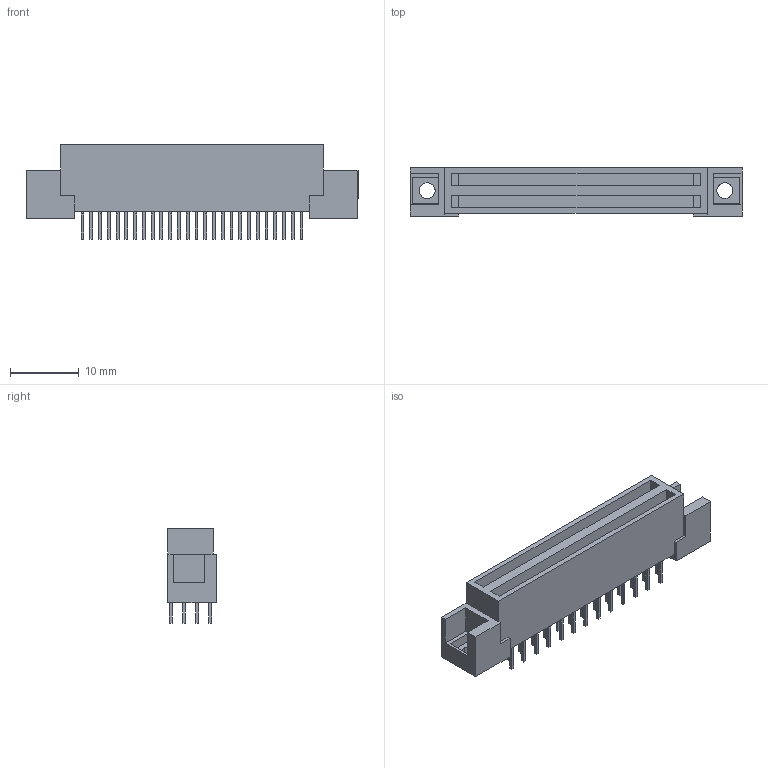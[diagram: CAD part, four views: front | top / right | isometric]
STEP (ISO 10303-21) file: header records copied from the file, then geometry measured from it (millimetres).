
FILE_DESCRIPTION(/* description */ (''),/* implementation_level */ '2;1');
FILE_NAME(/* name */ '78-5110-5920-2.stp',/* time_stamp */ '2011-07-19T09:06:57-05:00',/* author */ (''),/* organization */ (''),/* preprocessor_version */ 'ST-DEVELOPER v11',/* originating_system */ 'SIEMENS PLM Software NX 7.5',/* authorisation */ '');
FILE_SCHEMA (('AUTOMOTIVE_DESIGN { 1 0 10303 214 1 1 1 1 }'));
Length unit declared in the file: millimetre
Products named in the file (1): 78-5110-5920-2
Bounding box: 48.15 x 7.01 x 13.69 mm (x, y, z)
Volume: 1897.9 mm3; surface area: 3313 mm2
Topology: 1 solids, 1 shells, 432 faces, 1353 edges, 978 vertices
Faces by surface type: plane 428, cylinder 4
Entity records: 16022 total; most frequent: CARTESIAN_POINT 4394, ORIENTED_EDGE 2706, DIRECTION 1681, EDGE_CURVE 1353, VERTEX_POINT 978, LINE 815, VECTOR 815, B_SPLINE_CURVE_WITH_KNOTS 538
